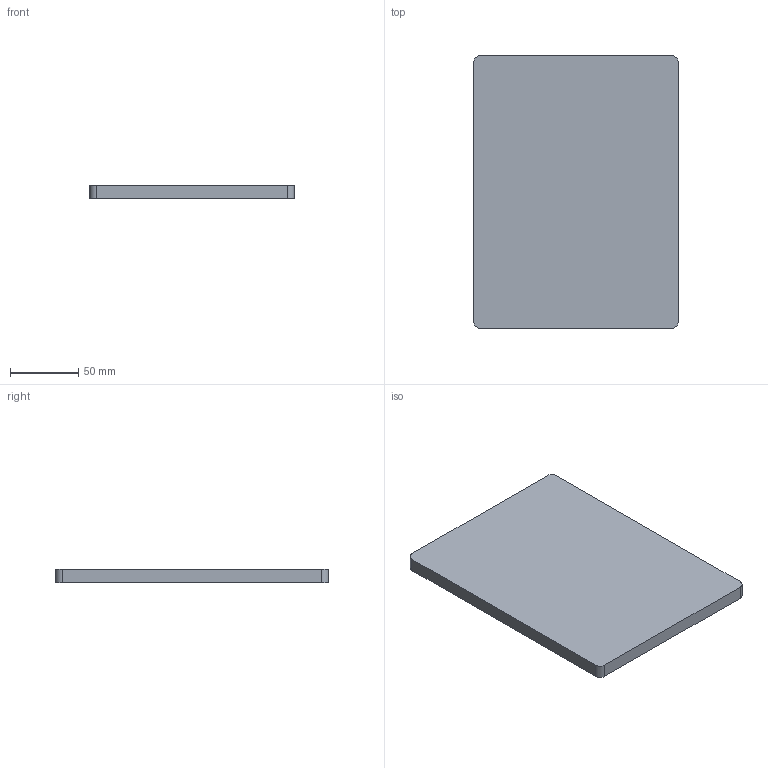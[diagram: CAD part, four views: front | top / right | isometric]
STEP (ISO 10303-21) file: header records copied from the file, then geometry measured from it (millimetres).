
FILE_DESCRIPTION(('CATIA V5 STEP Exchange'),'2;1');
FILE_NAME('D:\姚明阳\测试工装\加工件\3D\TD02_V1.stp','2020-12-11T01:41:06+00:00',('none'),('none'),'CATIA Version 5 Release 21 GA (IN-10)','CATIA V5 STEP AP214','none');
FILE_SCHEMA(('AUTOMOTIVE_DESIGN { 1 0 10303 214 1 1 1 1 }'));
Length unit declared in the file: millimetre
Products named in the file (1): Part39
Bounding box: 150 x 200 x 10 mm (x, y, z)
Volume: 299785.4 mm3; surface area: 66871.2 mm2
Topology: 1 solids, 1 shells, 10 faces, 24 edges, 16 vertices
Faces by surface type: plane 6, cylinder 4
Entity records: 310 total; most frequent: CARTESIAN_POINT 51, ORIENTED_EDGE 48, DIRECTION 44, EDGE_CURVE 24, AXIS2_PLACEMENT_3D 19, VECTOR 16, LINE 16, VERTEX_POINT 16
